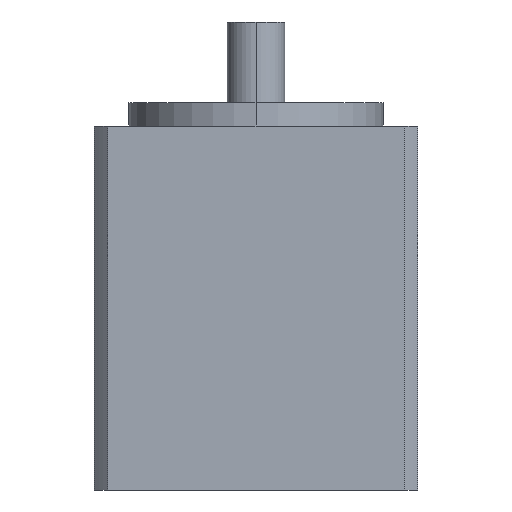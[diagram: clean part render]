
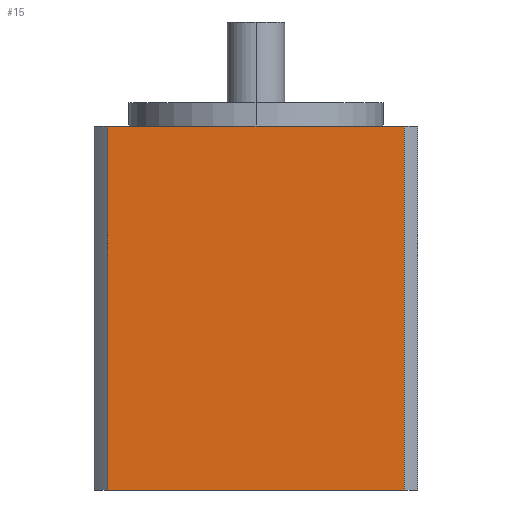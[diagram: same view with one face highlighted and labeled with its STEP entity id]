
A CAD part, left-side view. The second image highlights one B-rep face of the part: STEP entity #15.
In plain terms, the highlighted planar face has unit normal (-1, 0, 0).
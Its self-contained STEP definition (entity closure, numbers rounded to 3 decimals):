
#15 = ADVANCED_FACE ( 'NONE', ( #231 ), #587, .F. ) ;
#40 = VERTEX_POINT ( 'NONE', #679 ) ;
#61 = VERTEX_POINT ( 'NONE', #386 ) ;
#68 = VERTEX_POINT ( 'NONE', #416 ) ;
#90 = VERTEX_POINT ( 'NONE', #411 ) ;
#104 = ORIENTED_EDGE ( 'NONE', *, *, #716, .F. ) ;
#127 = ORIENTED_EDGE ( 'NONE', *, *, #710, .F. ) ;
#131 = ORIENTED_EDGE ( 'NONE', *, *, #711, .T. ) ;
#147 = ORIENTED_EDGE ( 'NONE', *, *, #697, .F. ) ;
#191 = EDGE_LOOP ( 'NONE', ( #147, #131, #104, #127 ) ) ;
#231 = FACE_OUTER_BOUND ( 'NONE', #191, .T. ) ;
#272 = LINE ( 'NONE', #440, #321 ) ;
#276 = VECTOR ( 'NONE', #488, 1000. ) ;
#292 = VECTOR ( 'NONE', #449, 1000. ) ;
#294 = VECTOR ( 'NONE', #479, 1000. ) ;
#303 = LINE ( 'NONE', #431, #294 ) ;
#311 = LINE ( 'NONE', #403, #292 ) ;
#315 = LINE ( 'NONE', #485, #276 ) ;
#321 = VECTOR ( 'NONE', #457, 1000. ) ;
#386 = CARTESIAN_POINT ( 'NONE',  ( -14., 12.845, 31.5 ) ) ;
#403 = CARTESIAN_POINT ( 'NONE',  ( -14., 12.845, 0. ) ) ;
#411 = CARTESIAN_POINT ( 'NONE',  ( -14., -12.845, 0. ) ) ;
#416 = CARTESIAN_POINT ( 'NONE',  ( -14., 12.845, 0. ) ) ;
#431 = CARTESIAN_POINT ( 'NONE',  ( -14., 14., 0. ) ) ;
#440 = CARTESIAN_POINT ( 'NONE',  ( -14., 14., 31.5 ) ) ;
#449 = DIRECTION ( 'NONE',  ( 0., 0., 1. ) ) ;
#457 = DIRECTION ( 'NONE',  ( 0., -1., 0. ) ) ;
#479 = DIRECTION ( 'NONE',  ( 0., -1., 0. ) ) ;
#485 = CARTESIAN_POINT ( 'NONE',  ( -14., -12.845, 0. ) ) ;
#488 = DIRECTION ( 'NONE',  ( 0., 0., -1. ) ) ;
#583 = DIRECTION ( 'NONE',  ( 1., 0., 0. ) ) ;
#587 = PLANE ( 'NONE',  #787 ) ;
#610 = CARTESIAN_POINT ( 'NONE',  ( -14., 14., 31.5 ) ) ;
#611 = DIRECTION ( 'NONE',  ( 0., 1., 0. ) ) ;
#679 = CARTESIAN_POINT ( 'NONE',  ( -14., -12.845, 31.5 ) ) ;
#697 = EDGE_CURVE ( 'NONE', #68, #61, #311, .T. ) ;
#710 = EDGE_CURVE ( 'NONE', #61, #40, #272, .T. ) ;
#711 = EDGE_CURVE ( 'NONE', #68, #90, #303, .T. ) ;
#716 = EDGE_CURVE ( 'NONE', #40, #90, #315, .T. ) ;
#787 = AXIS2_PLACEMENT_3D ( 'NONE', #610, #583, #611 ) ;
